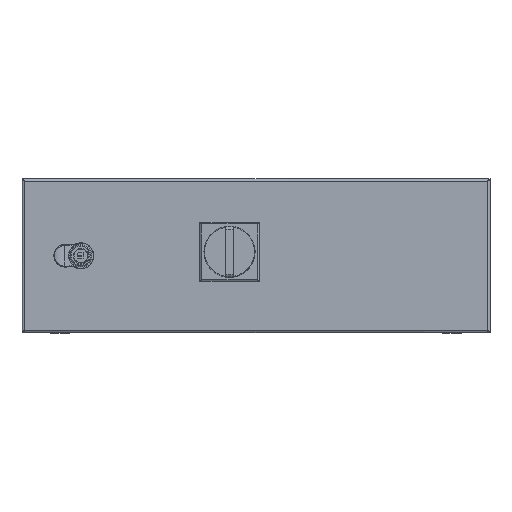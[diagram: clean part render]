
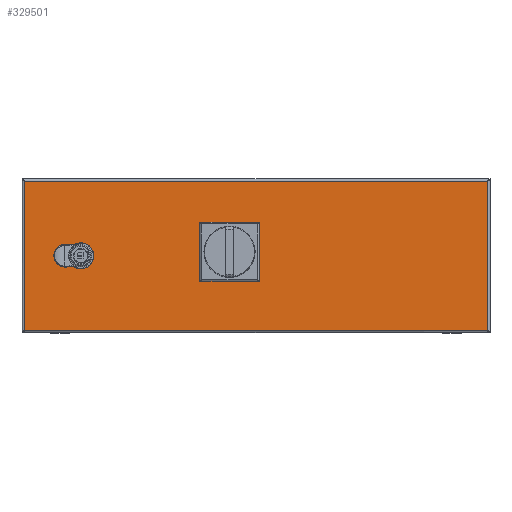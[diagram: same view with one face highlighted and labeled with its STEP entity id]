
A CAD part, top view. The second image highlights one B-rep face of the part: STEP entity #329501.
In plain terms, the highlighted planar face has unit normal (0, 0, 1).
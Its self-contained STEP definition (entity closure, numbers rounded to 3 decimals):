
#323371=CARTESIAN_POINT(' ',(289.389,97.733,233.253));
#323372=VERTEX_POINT(' ',#323371);
#324106=CARTESIAN_POINT(' ',(289.389,-91.667,233.253));
#324107=VERTEX_POINT(' ',#324106);
#325081=CARTESIAN_POINT(' ',(289.389,97.733,233.253));
#325086=DIRECTION(' ',(0.,-1.,0.));
#325091=VECTOR(' ',#325086,1.);
#325096=LINE('',#325081,#325091);
#325101=EDGE_CURVE(' ',#323372,#324107,#325096,.T.);
#327346=CARTESIAN_POINT(' ',(-299.011,-91.667,233.253));
#327347=VERTEX_POINT(' ',#327346);
#327961=CARTESIAN_POINT(' ',(-299.011,97.733,233.253));
#327962=VERTEX_POINT(' ',#327961);
#329371=DIRECTION(' ',(-0.,-0.,1.));
#329376=CARTESIAN_POINT(' ',(289.389,-91.667,233.253));
#329381=DIRECTION(' ',(0.,1.,0.));
#329386=AXIS2_PLACEMENT_3D(' ',#329376,#329371,#329381);
#329391=PLANE('NONE',#329386);
#329396=CARTESIAN_POINT(' ',(-299.011,-91.667,233.253));
#329401=DIRECTION(' ',(1.,0.,0.));
#329406=VECTOR(' ',#329401,1.);
#329411=LINE('',#329396,#329406);
#329416=EDGE_CURVE(' ',#327347,#324107,#329411,.T.);
#329421=ORIENTED_EDGE(' ',*,*,#329416,.T.);
#329426=ORIENTED_EDGE(' ',*,*,#325101,.F.);
#329431=CARTESIAN_POINT(' ',(289.389,97.733,233.253));
#329436=DIRECTION(' ',(-1.,0.,0.));
#329441=VECTOR(' ',#329436,1.);
#329446=LINE('',#329431,#329441);
#329451=EDGE_CURVE(' ',#323372,#327962,#329446,.T.);
#329456=ORIENTED_EDGE(' ',*,*,#329451,.T.);
#329461=CARTESIAN_POINT(' ',(-299.011,97.733,233.253));
#329466=DIRECTION(' ',(0.,-1.,0.));
#329471=VECTOR(' ',#329466,1.);
#329476=LINE('',#329461,#329471);
#329481=EDGE_CURVE(' ',#327962,#327347,#329476,.T.);
#329486=ORIENTED_EDGE(' ',*,*,#329481,.T.);
#329491=EDGE_LOOP(' ',(#329421,#329426,#329456,#329486));
#329496=FACE_OUTER_BOUND(' ',#329491,.T.);
#329501=ADVANCED_FACE('NONE',(#329496),#329391,.T.);
